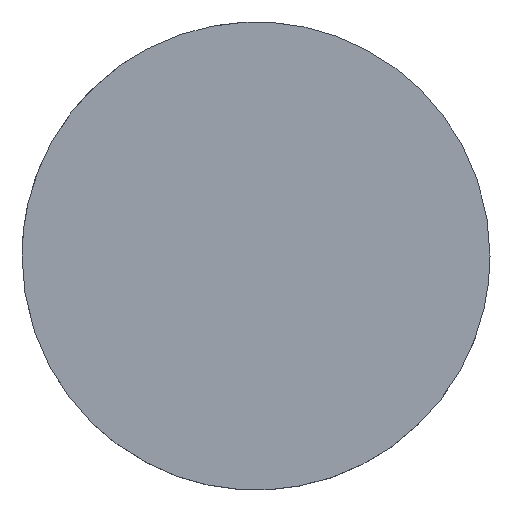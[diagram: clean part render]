
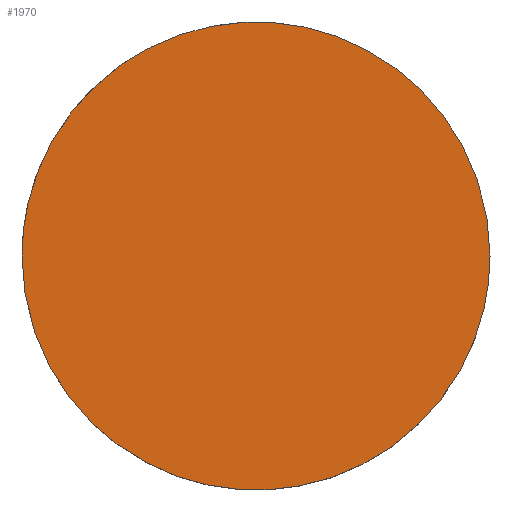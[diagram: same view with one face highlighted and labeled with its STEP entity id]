
A CAD part, top view. The second image highlights one B-rep face of the part: STEP entity #1970.
In plain terms, the highlighted planar face has unit normal (0, 0, 1).
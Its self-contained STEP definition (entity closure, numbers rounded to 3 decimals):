
#190 = CARTESIAN_POINT ('', (-12.7, 0., 0.));
#200 = VERTEX_POINT ('', #190);
#260 = CARTESIAN_POINT ('', (12.7, 0., 0.));
#270 = VERTEX_POINT ('', #260);
#280 = CARTESIAN_POINT ('', (12.7, 0., 0.));
#290 = CARTESIAN_POINT ('', (12.7, 12.7, 0.));
#300 = CARTESIAN_POINT ('', (0., 12.7, 0.));
#310 = CARTESIAN_POINT ('', (-12.7, 12.7, 0.));
#320 = CARTESIAN_POINT ('', (-12.7, 0., 0.));
#330 = (
   BOUNDED_CURVE ()
   B_SPLINE_CURVE (2, (#280, #290, #300, #310, #320), .UNSPECIFIED., .F., .U.)
   B_SPLINE_CURVE_WITH_KNOTS ((3, 2, 3), (0., 1.571, 3.142), .UNSPECIFIED.)
   CURVE ()
   GEOMETRIC_REPRESENTATION_ITEM ()
   RATIONAL_B_SPLINE_CURVE ((1., 0.707, 1., 0.707, 1.))
   REPRESENTATION_ITEM ('')
);
#340 = EDGE_CURVE ('', #270, #200, #330, .T.);
#580 = CARTESIAN_POINT ('', (-12.7, 0., 0.));
#590 = CARTESIAN_POINT ('', (-12.7, -12.7, 0.));
#600 = CARTESIAN_POINT ('', (0., -12.7, 0.));
#610 = CARTESIAN_POINT ('', (12.7, -12.7, 0.));
#620 = CARTESIAN_POINT ('', (12.7, 0., 0.));
#630 = (
   BOUNDED_CURVE ()
   B_SPLINE_CURVE (2, (#580, #590, #600, #610, #620), .UNSPECIFIED., .F., .U.)
   B_SPLINE_CURVE_WITH_KNOTS ((3, 2, 3), (3.142, 4.712, 6.283), .UNSPECIFIED.)
   CURVE ()
   GEOMETRIC_REPRESENTATION_ITEM ()
   RATIONAL_B_SPLINE_CURVE ((1., 0.707, 1., 0.707, 1.))
   REPRESENTATION_ITEM ('')
);
#640 = EDGE_CURVE ('', #200, #270, #630, .T.);
#1880 = ORIENTED_EDGE ('', *, *, #340, .T.);
#1890 = ORIENTED_EDGE ('', *, *, #640, .T.);
#1900 = EDGE_LOOP ('', (#1880, #1890));
#1910 = FACE_OUTER_BOUND ('', #1900, .T.);
#1920 = CARTESIAN_POINT ('', (0., 26.112, 0.));
#1930 = DIRECTION ('', (0., 0., 1.));
#1940 = DIRECTION ('', (-0.707, -0.707, 0.));
#1950 = AXIS2_PLACEMENT_3D ('', #1920, #1930, #1940);
#1960 = PLANE ('', #1950);
#1970 = ADVANCED_FACE ('', (#1910), #1960, .T.);
